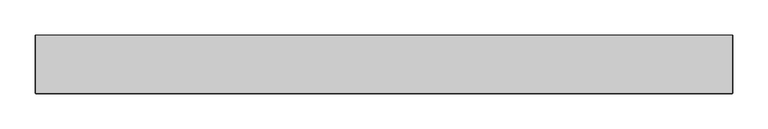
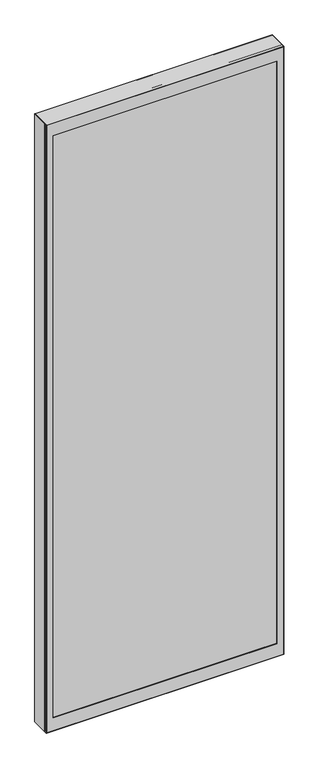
"""IFC4 building model written with IfcOpenShell, lengths in millimetres: plate geometry, PNX_VITRE-TH : 85-MVDVAL."""

from ifc_helpers import new_model, si_unit, frame, origin, origin_with_axes, place, context, project, spatial, polyline, outline, extrude, source, transform, mapped, element, save


def plate_d8492dd5(model_context):
    return source(origin(), model_context, "Body", "SweptSolid", [
        extrude(outline(polyline([(478.2, -37.5), (-478.2, -37.5), (-478.2, -31.5), (478.2, -31.5), (478.2, -37.5)])), frame((0.0, 0.0, 46.8), z_axis=(0.0, 0.0, 1.0), x_axis=(1.0, 0.0, 0.0)), (0.0, 0.0, 1.0), 2591.4),
        extrude(outline(polyline([(478.2, 29.5), (-478.2, 29.5), (-478.2, 37.5), (478.2, 37.5), (478.2, 29.5)])), frame((0.0, 0.0, 46.8), z_axis=(0.0, 0.0, 1.0), x_axis=(1.0, 0.0, 0.0)), (0.0, 0.0, 1.0), 2591.4),
        extrude(outline(polyline([(2638.2, 478.2), (2638.2, -478.2), (46.8, -478.2), (46.8, 478.2), (2638.2, 478.2)]), holes=[polyline([(2628.2, -468.2), (2628.2, 468.2), (56.8, 468.2), (56.8, -468.2), (2628.2, -468.2)])]), frame((0.0, 37.5, 0.0), z_axis=(0.0, 1.0, 0.0), x_axis=(0.0, 0.0, 1.0)), (0.0, 0.0, 1.0), 2.0),
        extrude(outline(polyline([(2638.2, 478.2), (2638.2, -478.2), (46.8, -478.2), (46.8, 478.2), (2638.2, 478.2)]), holes=[polyline([(2628.2, -468.2), (2628.2, 468.2), (56.8, 468.2), (56.8, -468.2), (2628.2, -468.2)])]), frame((0.0, 27.5, 0.0), z_axis=(0.0, 1.0, 0.0), x_axis=(0.0, 0.0, 1.0)), (0.0, 0.0, 1.0), 2.0),
        extrude(outline(polyline([(2638.2, 478.2), (2638.2, -478.2), (46.8, -478.2), (46.8, 478.2), (2638.2, 478.2)]), holes=[polyline([(2628.2, -468.2), (2628.2, 468.2), (56.8, 468.2), (56.8, -468.2), (2628.2, -468.2)])]), frame((0.0, -31.5, 0.0), z_axis=(0.0, 1.0, 0.0), x_axis=(0.0, 0.0, 1.0)), (0.0, 0.0, 1.0), 2.0),
        extrude(outline(polyline([(2638.2, 478.2), (2638.2, -478.2), (46.8, -478.2), (46.8, 478.2), (2638.2, 478.2)]), holes=[polyline([(2628.2, -468.2), (2628.2, 468.2), (56.8, 468.2), (56.8, -468.2), (2628.2, -468.2)])]), frame((0.0, -39.5, 0.0), z_axis=(0.0, 1.0, 0.0), x_axis=(0.0, 0.0, 1.0)), (0.0, 0.0, 1.0), 2.0),
        extrude(outline(polyline([(2684.2, 496.2), (2684.2, -496.2), (0.8, -496.2), (0.8, 496.2), (2684.2, 496.2)]), holes=[polyline([(2628.2, -468.2), (2628.2, 468.2), (56.8, 468.2), (56.8, -468.2), (2628.2, -468.2)])]), frame((0.0, 39.5, 0.0), z_axis=(0.0, 1.0, 0.0), x_axis=(0.0, 0.0, 1.0)), (0.0, 0.0, 1.0), 2.0),
        extrude(outline(polyline([(2684.2, 496.2), (2684.2, -496.2), (0.8, -496.2), (0.8, 496.2), (2684.2, 496.2)]), holes=[polyline([(2628.2, -468.2), (2628.2, 468.2), (56.8, 468.2), (56.8, -468.2), (2628.2, -468.2)])]), frame((0.0, -29.5, 0.0), z_axis=(0.0, 1.0, 0.0), x_axis=(0.0, 0.0, 1.0)), (0.0, 0.0, 1.0), 57.0),
        extrude(outline(polyline([(2684.2, 496.2), (2684.2, -496.2), (0.8, -496.2), (0.8, 496.2), (2684.2, 496.2)]), holes=[polyline([(2628.2, -468.2), (2628.2, 468.2), (56.8, 468.2), (56.8, -468.2), (2628.2, -468.2)])]), frame((0.0, -41.5, 0.0), z_axis=(0.0, 1.0, 0.0), x_axis=(0.0, 0.0, 1.0)), (0.0, 0.0, 1.0), 2.0),
        extrude(outline(polyline([(496.2, 41.5), (496.2, -41.5), (-496.2, -41.5), (-496.2, 41.5), (496.2, 41.5)])), frame((0.0, 0.0, 2684.2), z_axis=(0.0, 0.0, 1.0), x_axis=(1.0, 0.0, 0.0)), (0.0, 0.0, 1.0), 0.8),
        extrude(outline(polyline([(496.2, 41.5), (496.2, -41.5), (-496.2, -41.5), (-496.2, 41.5), (496.2, 41.5)])), origin_with_axes(), (0.0, 0.0, 1.0), 0.8),
        extrude(outline(polyline([(-496.2, -41.5), (-497.0, -41.5), (-497.0, 41.5), (-496.2, 41.5), (-496.2, -41.5)])), origin_with_axes(), (0.0, 0.0, 1.0), 2685.0),
        extrude(outline(polyline([(497.0, -41.5), (496.2, -41.5), (496.2, 41.5), (497.0, 41.5), (497.0, -41.5)])), origin_with_axes(), (0.0, 0.0, 1.0), 2685.0),
    ])


if __name__ == "__main__":
    model = new_model("IFC4")
    model_context = context("Model", 3, world=origin())
    ifc_project = project(units=[si_unit("LENGTHUNIT", "METRE", prefix="MILLI")], contexts=[model_context])
    site = spatial("IfcSite", under=ifc_project)
    building = spatial("IfcBuilding", under=site)
    placement = place(None, origin())
    plate_shape = plate_d8492dd5(model_context)
    element("IfcPlate", 1, ObjectType="PNX_VITRE-TH : 85-MVDVAL", at=placement, inside=building, context=model_context, shape_type="MappedRepresentation", body=[
        mapped(plate_shape, transform((0.0, 0.0, 0.0), x_axis=(1.0, 0.0, 0.0), y_axis=(0.0, 1.0, 0.0), z_axis=(0.0, 0.0, 1.0))),
    ])
    save(model, "model.ifc")
